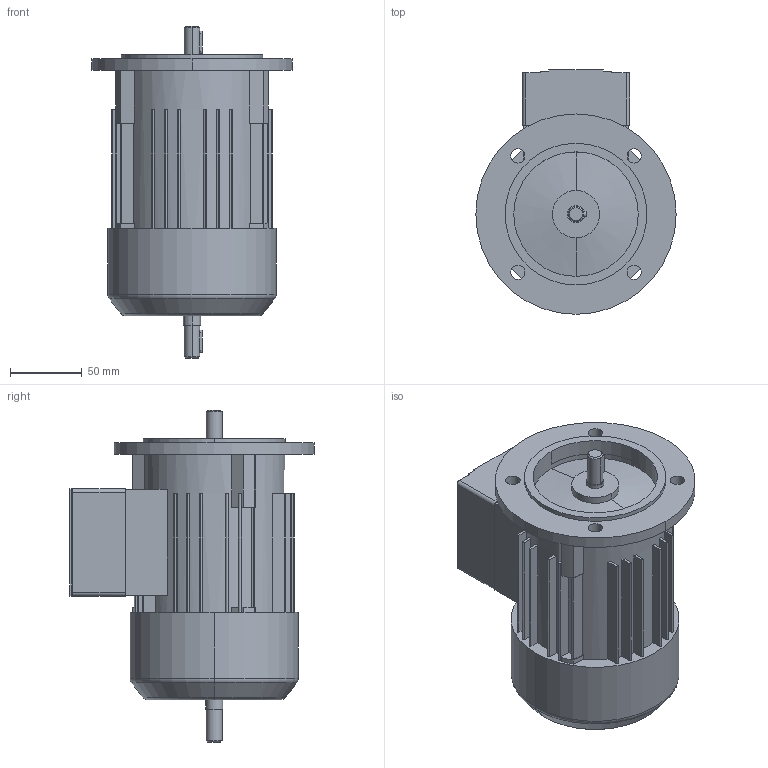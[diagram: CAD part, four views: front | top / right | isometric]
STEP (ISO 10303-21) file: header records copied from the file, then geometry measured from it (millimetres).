
FILE_DESCRIPTION((''),'2;1');
FILE_NAME('1LA7060-2AA11-Z-K16_PRT','2002-04-12T',('martin könig'),(''),'PRO/ENGINEER BY PARAMETRIC TECHNOLOGY CORPORATION, 2002030','PRO/ENGINEER BY PARAMETRIC TECHNOLOGY CORPORATION, 2002030','');
FILE_SCHEMA(('CONFIG_CONTROL_DESIGN'));
Length unit declared in the file: millimetre
Products named in the file (1): 1LA7060-2AA11-Z-K16_PRT
Bounding box: 140 x 171 x 232 mm (x, y, z)
Volume: 1908217.8 mm3; surface area: 142637.2 mm2
Topology: 1 solids, 1 shells, 220 faces, 602 edges, 396 vertices
Faces by surface type: plane 130, cylinder 78, cone 8, torus 4
Entity records: 7138 total; most frequent: CARTESIAN_POINT 1294, DIRECTION 1256, ORIENTED_EDGE 1204, EDGE_CURVE 602, AXIS2_PLACEMENT_3D 438, VERTEX_POINT 396, VECTOR 380, LINE 380
